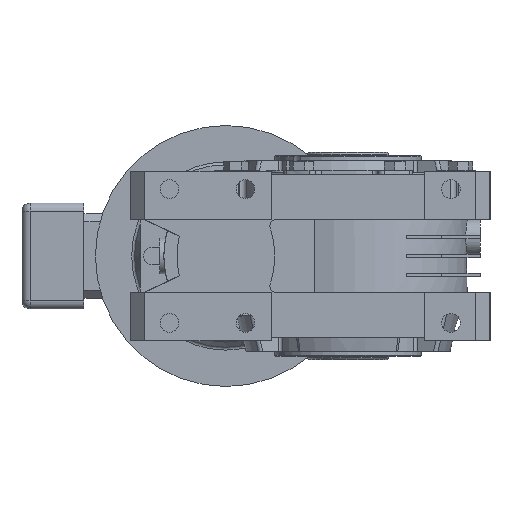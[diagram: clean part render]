
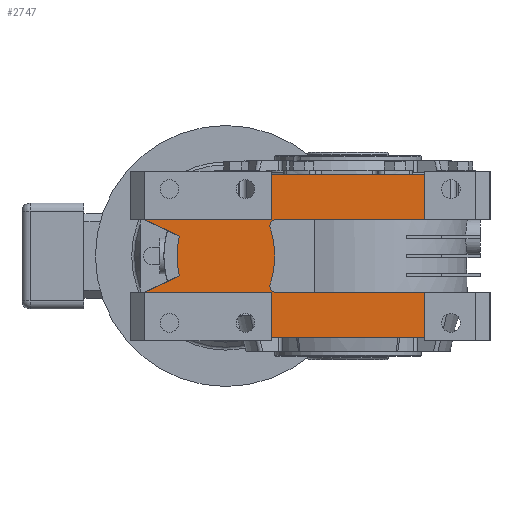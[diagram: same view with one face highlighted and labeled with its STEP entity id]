
A CAD part, left-side view. The second image highlights one B-rep face of the part: STEP entity #2747.
In plain terms, the highlighted planar face has unit normal (-1, 0, 0).
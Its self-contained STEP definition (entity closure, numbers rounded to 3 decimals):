
#2747 = ADVANCED_FACE( '', ( #6157 ), #6158, .T. );
#6157 = FACE_OUTER_BOUND( '', #10226, .T. );
#6158 = PLANE( '', #10227 );
#10226 = EDGE_LOOP( '', ( #18964, #18965, #18966, #18967, #18968, #18969, #18970, #18971, #18972, #18973, #18974, #18975, #18976, #18977, #18978, #18979, #18980, #18981 ) );
#10227 = AXIS2_PLACEMENT_3D( '', #18982, #18983, #18984 );
#18964 = ORIENTED_EDGE( '', *, *, #25407, .T. );
#18965 = ORIENTED_EDGE( '', *, *, #24742, .T. );
#18966 = ORIENTED_EDGE( '', *, *, #27188, .T. );
#18967 = ORIENTED_EDGE( '', *, *, #27189, .T. );
#18968 = ORIENTED_EDGE( '', *, *, #27190, .T. );
#18969 = ORIENTED_EDGE( '', *, *, #27029, .F. );
#18970 = ORIENTED_EDGE( '', *, *, #25211, .T. );
#18971 = ORIENTED_EDGE( '', *, *, #27191, .F. );
#18972 = ORIENTED_EDGE( '', *, *, #26010, .T. );
#18973 = ORIENTED_EDGE( '', *, *, #26205, .T. );
#18974 = ORIENTED_EDGE( '', *, *, #25608, .F. );
#18975 = ORIENTED_EDGE( '', *, *, #26846, .T. );
#18976 = ORIENTED_EDGE( '', *, *, #27192, .T. );
#18977 = ORIENTED_EDGE( '', *, *, #26105, .T. );
#18978 = ORIENTED_EDGE( '', *, *, #24012, .F. );
#18979 = ORIENTED_EDGE( '', *, *, #27193, .F. );
#18980 = ORIENTED_EDGE( '', *, *, #26266, .T. );
#18981 = ORIENTED_EDGE( '', *, *, #25251, .F. );
#18982 = CARTESIAN_POINT( '', ( -86., 58., 0. ) );
#18983 = DIRECTION( '', ( -1., 0., 0. ) );
#18984 = DIRECTION( '', ( 0., 0., -1. ) );
#24012 = EDGE_CURVE( '', #28682, #28684, #28685, .T. );
#24742 = EDGE_CURVE( '', #29971, #29969, #29972, .T. );
#25211 = EDGE_CURVE( '', #30743, #30740, #30744, .T. );
#25251 = EDGE_CURVE( '', #30809, #30799, #30811, .T. );
#25407 = EDGE_CURVE( '', #30809, #29971, #31057, .T. );
#25608 = EDGE_CURVE( '', #31388, #31390, #31391, .T. );
#26010 = EDGE_CURVE( '', #32017, #32015, #32018, .T. );
#26105 = EDGE_CURVE( '', #32161, #28684, #32163, .T. );
#26205 = EDGE_CURVE( '', #32015, #31390, #32306, .T. );
#26266 = EDGE_CURVE( '', #32395, #30799, #32396, .T. );
#26846 = EDGE_CURVE( '', #31388, #33225, #33226, .T. );
#27029 = EDGE_CURVE( '', #30743, #33472, #33473, .T. );
#27188 = EDGE_CURVE( '', #29969, #33684, #33685, .T. );
#27189 = EDGE_CURVE( '', #33684, #33686, #33687, .T. );
#27190 = EDGE_CURVE( '', #33686, #33472, #33688, .T. );
#27191 = EDGE_CURVE( '', #32017, #30740, #33689, .T. );
#27192 = EDGE_CURVE( '', #33225, #32161, #33690, .T. );
#27193 = EDGE_CURVE( '', #32395, #28682, #33691, .T. );
#28682 = VERTEX_POINT( '', #35638 );
#28684 = VERTEX_POINT( '', #35641 );
#28685 = LINE( '', #35642, #35643 );
#29969 = VERTEX_POINT( '', #37567 );
#29971 = VERTEX_POINT( '', #37570 );
#29972 = CIRCLE( '', #37571, 4. );
#30740 = VERTEX_POINT( '', #38779 );
#30743 = VERTEX_POINT( '', #38783 );
#30744 = LINE( '', #38784, #38785 );
#30799 = VERTEX_POINT( '', #38863 );
#30809 = VERTEX_POINT( '', #38878 );
#30811 = LINE( '', #38881, #38882 );
#31057 = LINE( '', #39239, #39240 );
#31388 = VERTEX_POINT( '', #39732 );
#31390 = VERTEX_POINT( '', #39735 );
#31391 = LINE( '', #39736, #39737 );
#32015 = VERTEX_POINT( '', #40709 );
#32017 = VERTEX_POINT( '', #40712 );
#32018 = LINE( '', #40713, #40714 );
#32161 = VERTEX_POINT( '', #41048 );
#32163 = LINE( '', #41051, #41052 );
#32306 = LINE( '', #41268, #41269 );
#32395 = VERTEX_POINT( '', #41404 );
#32396 = LINE( '', #41405, #41406 );
#33225 = VERTEX_POINT( '', #42636 );
#33226 = CIRCLE( '', #42637, 55. );
#33472 = VERTEX_POINT( '', #43014 );
#33473 = LINE( '', #43015, #43016 );
#33684 = VERTEX_POINT( '', #43359 );
#33685 = CIRCLE( '', #43360, 55. );
#33686 = VERTEX_POINT( '', #43361 );
#33687 = CIRCLE( '', #43362, 4. );
#33688 = LINE( '', #43363, #43364 );
#33689 = LINE( '', #43365, #43366 );
#33690 = LINE( '', #43367, #43368 );
#33691 = LINE( '', #43369, #43370 );
#35638 = CARTESIAN_POINT( '', ( -86., 47., -22.5 ) );
#35641 = CARTESIAN_POINT( '', ( -86., 124.5, -22.5 ) );
#35642 = CARTESIAN_POINT( '', ( -86., 58., -22.5 ) );
#35643 = VECTOR( '', #45495, 1000. );
#37567 = CARTESIAN_POINT( '', ( -86., 47.774, -17.246 ) );
#37570 = CARTESIAN_POINT( '', ( -86., 43.975, -22.5 ) );
#37571 = AXIS2_PLACEMENT_3D( '', #46471, #46472, #46473 );
#38779 = CARTESIAN_POINT( '', ( -86., 47., 50. ) );
#38783 = CARTESIAN_POINT( '', ( -86., -47., 50. ) );
#38784 = CARTESIAN_POINT( '', ( -86., 47., 50. ) );
#38785 = VECTOR( '', #47000, 1000. );
#38863 = CARTESIAN_POINT( '', ( -86., -47., -50. ) );
#38878 = CARTESIAN_POINT( '', ( -86., -47., -22.5 ) );
#38881 = CARTESIAN_POINT( '', ( -86., -47., 52. ) );
#38882 = VECTOR( '', #47045, 1000. );
#39239 = CARTESIAN_POINT( '', ( -86., -87., -22.5 ) );
#39240 = VECTOR( '', #47213, 1000. );
#39732 = CARTESIAN_POINT( '', ( -86., 103.616, 12.262 ) );
#39735 = CARTESIAN_POINT( '', ( -86., 124.5, 22. ) );
#39736 = CARTESIAN_POINT( '', ( -86., 125.572, 22.5 ) );
#39737 = VECTOR( '', #47578, 1000. );
#40709 = CARTESIAN_POINT( '', ( -86., 124.5, 22.5 ) );
#40712 = CARTESIAN_POINT( '', ( -86., 47., 22.5 ) );
#40713 = CARTESIAN_POINT( '', ( -86., 58., 22.5 ) );
#40714 = VECTOR( '', #48049, 1000. );
#41048 = CARTESIAN_POINT( '', ( -86., 124.5, -22. ) );
#41051 = CARTESIAN_POINT( '', ( -86., 124.5, 0. ) );
#41052 = VECTOR( '', #48155, 1000. );
#41268 = CARTESIAN_POINT( '', ( -86., 124.5, 0. ) );
#41269 = VECTOR( '', #48254, 1000. );
#41404 = CARTESIAN_POINT( '', ( -86., 47., -50. ) );
#41405 = CARTESIAN_POINT( '', ( -86., 47., -50. ) );
#41406 = VECTOR( '', #48310, 1000. );
#42636 = CARTESIAN_POINT( '', ( -86., 103.616, -12.262 ) );
#42637 = AXIS2_PLACEMENT_3D( '', #48912, #48913, #48914 );
#43014 = CARTESIAN_POINT( '', ( -86., -47., 22.5 ) );
#43015 = CARTESIAN_POINT( '', ( -86., -47., 52. ) );
#43016 = VECTOR( '', #49081, 1000. );
#43359 = CARTESIAN_POINT( '', ( -86., 47.774, 17.246 ) );
#43360 = AXIS2_PLACEMENT_3D( '', #49240, #49241, #49242 );
#43361 = CARTESIAN_POINT( '', ( -86., 43.975, 22.5 ) );
#43362 = AXIS2_PLACEMENT_3D( '', #49243, #49244, #49245 );
#43363 = CARTESIAN_POINT( '', ( -86., 133.5, 22.5 ) );
#43364 = VECTOR( '', #49246, 1000. );
#43365 = CARTESIAN_POINT( '', ( -86., 47., 52. ) );
#43366 = VECTOR( '', #49247, 1000. );
#43367 = CARTESIAN_POINT( '', ( -86., 125.572, -22.5 ) );
#43368 = VECTOR( '', #49248, 1000. );
#43369 = CARTESIAN_POINT( '', ( -86., 47., -28. ) );
#43370 = VECTOR( '', #49249, 1000. );
#45495 = DIRECTION( '', ( 0., 1., 0. ) );
#46471 = CARTESIAN_POINT( '', ( -86., 43.975, -18.5 ) );
#46472 = DIRECTION( '', ( 1., 0., 0. ) );
#46473 = DIRECTION( '', ( 0., 1., 0. ) );
#47000 = DIRECTION( '', ( 0., 1., 0. ) );
#47045 = DIRECTION( '', ( 0., 0., -1. ) );
#47213 = DIRECTION( '', ( 0., 1., 0. ) );
#47578 = DIRECTION( '', ( 0., 0.906, 0.423 ) );
#48049 = DIRECTION( '', ( 0., 1., 0. ) );
#48155 = DIRECTION( '', ( 0., 0., -1. ) );
#48254 = DIRECTION( '', ( 0., 0., -1. ) );
#48310 = DIRECTION( '', ( 0., -1., 0. ) );
#48912 = CARTESIAN_POINT( '', ( -86., 50., 0. ) );
#48913 = DIRECTION( '', ( -1., 0., 0. ) );
#48914 = DIRECTION( '', ( 0., -1., 0. ) );
#49081 = DIRECTION( '', ( 0., 0., -1. ) );
#49240 = CARTESIAN_POINT( '', ( -86., 100., 0. ) );
#49241 = DIRECTION( '', ( -1., 0., 0. ) );
#49242 = DIRECTION( '', ( 0., 0., 1. ) );
#49243 = CARTESIAN_POINT( '', ( -86., 43.975, 18.5 ) );
#49244 = DIRECTION( '', ( 1., 0., 0. ) );
#49245 = DIRECTION( '', ( 0., 1., 0. ) );
#49246 = DIRECTION( '', ( 0., -1., 0. ) );
#49247 = DIRECTION( '', ( 0., 0., 1. ) );
#49248 = DIRECTION( '', ( 0., 0.906, -0.423 ) );
#49249 = DIRECTION( '', ( 0., 0., 1. ) );
